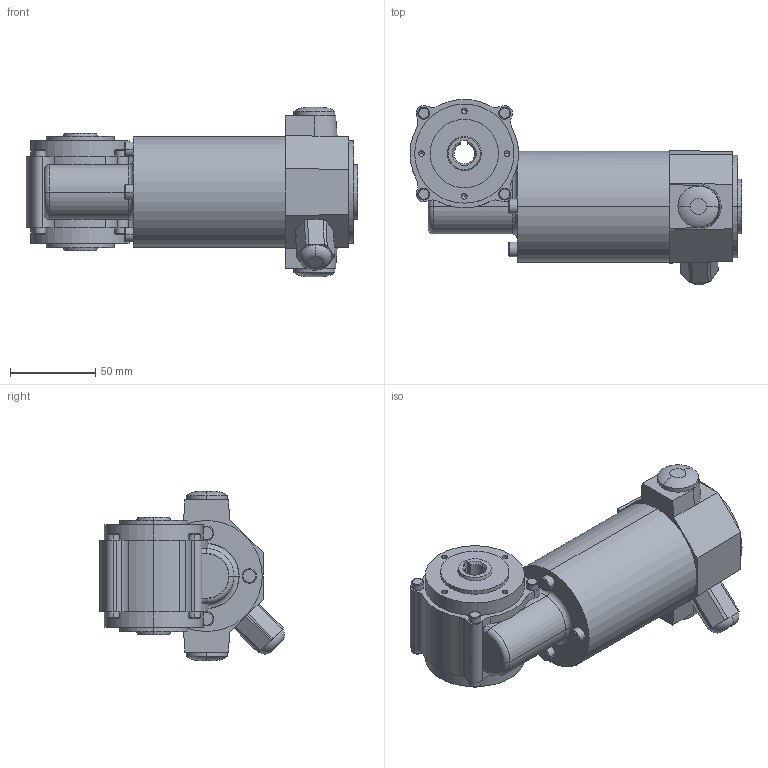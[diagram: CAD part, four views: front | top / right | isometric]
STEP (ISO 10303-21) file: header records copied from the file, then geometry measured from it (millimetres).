
FILE_DESCRIPTION(('OneSpaceDesigner STEP Export'),'2;1');
FILE_NAME('EPG02_GB12.stp','2009-09-14T11:00:28',(''),(''),'OneSpace Designer STEP processor (Jan. 2003) for AP214(CD)(Solid Model)','OneSpace Designer 12.01D 09-Jul-2004 (C) CoCreate Software GmbH','');
FILE_SCHEMA(('AUTOMOTIVE_DESIGN_CC2 {1 2 10303 214 -1 1 5 1}'));
Length unit declared in the file: millimetre
Products named in the file (2): EPG02_GB12
Assembly tree (1 placements, depth 2):
  EPG02_GB12
    EPG02_GB12
Bounding box: 194.25 x 108.33 x 99 mm (x, y, z)
Volume: 680419.9 mm3; surface area: 62321.9 mm2
Topology: 1 solids, 1 shells, 256 faces, 651 edges, 421 vertices
Faces by surface type: cylinder 124, plane 68, cone 48, torus 14, bspline 2
Entity records: 8760 total; most frequent: CARTESIAN_POINT 3318, ORIENTED_EDGE 1270, DIRECTION 908, EDGE_CURVE 635, VERTEX_POINT 421, AXIS2_PLACEMENT_3D 332, EDGE_LOOP 298, FACE_OUTER_BOUND 256
